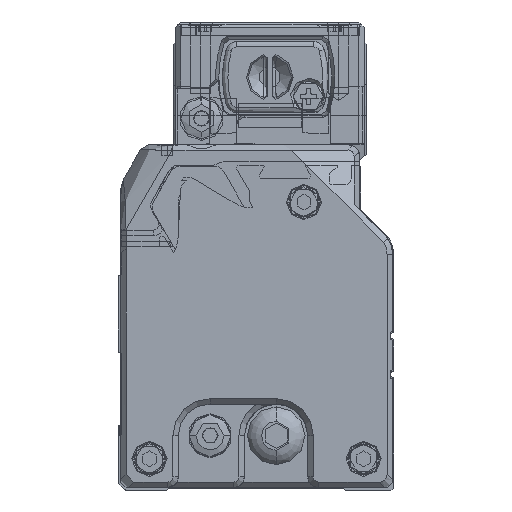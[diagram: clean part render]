
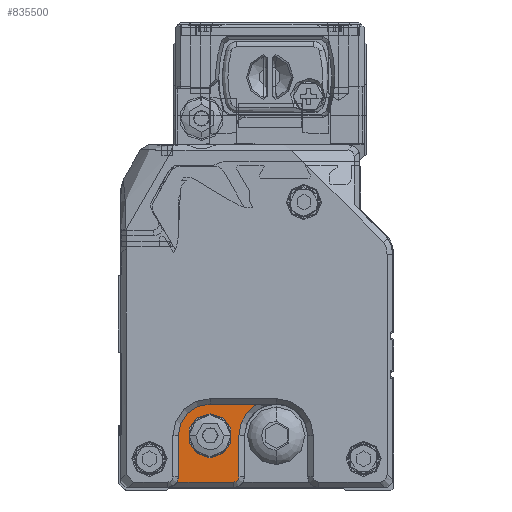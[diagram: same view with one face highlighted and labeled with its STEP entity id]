
A CAD part, left-side view. The second image highlights one B-rep face of the part: STEP entity #835500.
In plain terms, the highlighted planar face has unit normal (-1, 0, 0) as drawn and (1, 0, 0) by its records, which use the part's own axes.
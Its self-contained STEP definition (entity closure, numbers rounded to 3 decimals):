
#833950=CARTESIAN_POINT('',(7264.177,2.462,
3.148));
#833960=DIRECTION('',(-1.,0.,0.));
#833970=DIRECTION('',(0.,1.,0.));
#833980=AXIS2_PLACEMENT_3D('',#833950,#833960,#833970);
#833990=CIRCLE('',#833980,5.75);
#834000=CARTESIAN_POINT('',(7264.177,8.212,
3.148));
#834010=VERTEX_POINT('',#834000);
#834020=CARTESIAN_POINT('',(7264.177,2.462,
-2.602));
#834030=VERTEX_POINT('',#834020);
#834040=EDGE_CURVE('',#834010,#834030,#833990,.T.);
#834450=CARTESIAN_POINT('',(7264.177,8.212,
3.148));
#834460=DIRECTION('',(0.,0.,1.));
#834470=VECTOR('',#834460,1.);
#834480=LINE('',#834450,#834470);
#834490=CARTESIAN_POINT('',(7264.177,8.212,
10.598));
#834500=VERTEX_POINT('',#834490);
#834510=EDGE_CURVE('',#834010,#834500,#834480,.T.);
#834770=CARTESIAN_POINT('',(7264.177,-5.938,
-12.8));
#834780=DIRECTION('',(-1.,0.,0.));
#834790=DIRECTION('',(0.,0.,-1.));
#834800=AXIS2_PLACEMENT_3D('',#834770,#834780,#834790);
#834810=PLANE('',#834800);
#834820=CARTESIAN_POINT('',(7264.177,4.212,
11.598));
#834830=DIRECTION('',(0.,-1.,0.));
#834840=VECTOR('',#834830,1.);
#834850=LINE('',#834820,#834840);
#834860=CARTESIAN_POINT('',(7264.177,8.48,
11.598));
#834870=VERTEX_POINT('',#834860);
#834880=CARTESIAN_POINT('',(7264.177,-1.788,
11.598));
#834890=VERTEX_POINT('',#834880);
#834900=EDGE_CURVE('',#834870,#834890,#834850,.T.);
#834910=ORIENTED_EDGE('',*,*,#834900,.T.);
#834920=CARTESIAN_POINT('',(7264.177,10.212,
10.598));
#834930=DIRECTION('',(-1.,0.,0.));
#834940=DIRECTION('',(0.,1.,0.));
#834950=AXIS2_PLACEMENT_3D('',#834920,#834930,#834940);
#834960=CIRCLE('',#834950,2.);
#834970=EDGE_CURVE('',#834500,#834870,#834960,.T.);
#834980=ORIENTED_EDGE('',*,*,#834970,.T.);
#834990=ORIENTED_EDGE('',*,*,#834510,.T.);
#835000=ORIENTED_EDGE('',*,*,#834040,.F.);
#835010=CARTESIAN_POINT('',(7264.177,-5.888,
-2.602));
#835020=DIRECTION('',(0.,1.,0.));
#835030=VECTOR('',#835020,1.);
#835040=LINE('',#835010,#835030);
#835050=CARTESIAN_POINT('',(7264.177,-6.002,
-2.602));
#835060=VERTEX_POINT('',#835050);
#835070=EDGE_CURVE('',#835060,#834030,#835040,.T.);
#835080=ORIENTED_EDGE('',*,*,#835070,.T.);
#835090=CARTESIAN_POINT('',(7264.177,-9.538,
3.148));
#835100=DIRECTION('',(-1.,0.,0.));
#835110=DIRECTION('',(0.,1.,0.));
#835120=AXIS2_PLACEMENT_3D('',#835090,#835100,#835110);
#835130=CIRCLE('',#835120,6.75);
#835140=CARTESIAN_POINT('',(7264.177,-2.788,
3.148));
#835150=VERTEX_POINT('',#835140);
#835160=EDGE_CURVE('',#835150,#835060,#835130,.T.);
#835170=ORIENTED_EDGE('',*,*,#835160,.T.);
#835180=CARTESIAN_POINT('',(7264.177,-2.788,
6.873));
#835190=DIRECTION('',(0.,0.,-1.));
#835200=VECTOR('',#835190,1.);
#835210=LINE('',#835180,#835200);
#835220=CARTESIAN_POINT('',(7264.177,-2.788,
10.598));
#835230=VERTEX_POINT('',#835220);
#835240=EDGE_CURVE('',#835230,#835150,#835210,.T.);
#835250=ORIENTED_EDGE('',*,*,#835240,.T.);
#835260=CARTESIAN_POINT('',(7264.177,-1.788,
10.598));
#835270=DIRECTION('',(-1.,0.,0.));
#835280=DIRECTION('',(0.,1.,0.));
#835290=AXIS2_PLACEMENT_3D('',#835260,#835270,#835280);
#835300=CIRCLE('',#835290,1.);
#835310=EDGE_CURVE('',#835230,#834890,#835300,.T.);
#835320=ORIENTED_EDGE('',*,*,#835310,.F.);
#835330=EDGE_LOOP('',(#835320,#835250,#835170,#835080,#835000,#834990,
#834980,#834910));
#835340=FACE_OUTER_BOUND('',#835330,.T.);
#835350=CARTESIAN_POINT('',(7264.177,2.462,
3.148));
#835360=DIRECTION('',(-1.,0.,0.));
#835370=DIRECTION('',(0.,0.,-1.));
#835380=AXIS2_PLACEMENT_3D('',#835350,#835360,#835370);
#835390=CIRCLE('',#835380,4.);
#835400=CARTESIAN_POINT('',(7264.177,2.462,
7.148));
#835410=VERTEX_POINT('',#835400);
#835420=CARTESIAN_POINT('',(7264.177,2.462,
-0.852));
#835430=VERTEX_POINT('',#835420);
#835440=EDGE_CURVE('',#835410,#835430,#835390,.T.);
#835450=ORIENTED_EDGE('',*,*,#835440,.T.);
#835460=EDGE_CURVE('',#835430,#835410,#835390,.T.);
#835470=ORIENTED_EDGE('',*,*,#835460,.T.);
#835480=EDGE_LOOP('',(#835470,#835450));
#835490=FACE_BOUND('',#835480,.T.);
#835500=ADVANCED_FACE('',(#835340,#835490),#834810,.F.);
